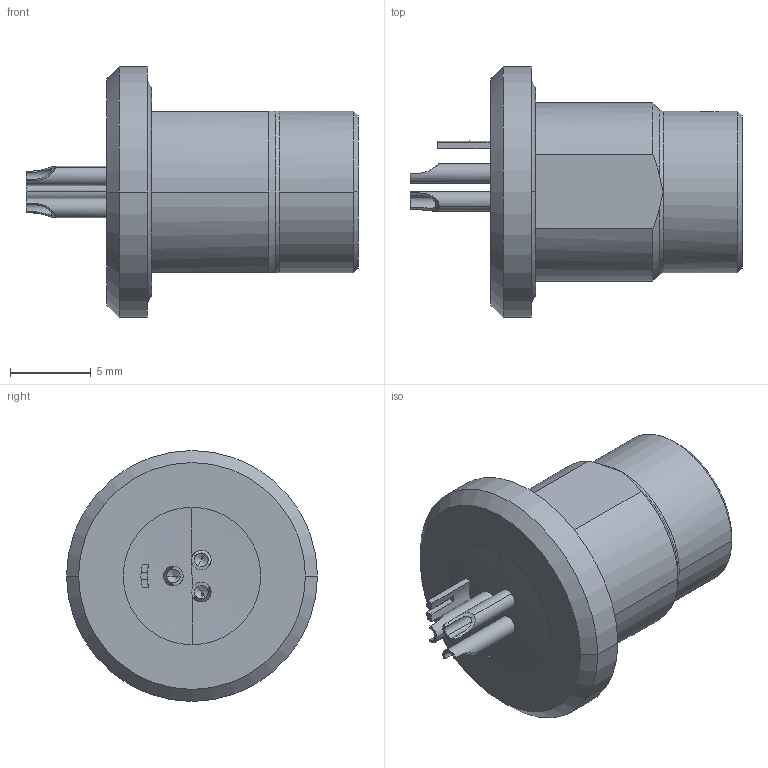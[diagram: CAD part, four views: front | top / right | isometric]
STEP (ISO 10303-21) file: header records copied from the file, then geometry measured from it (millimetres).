
FILE_DESCRIPTION((''),'2;1');
FILE_NAME('GK0Y_R-P03WJG0-000L_WITHOUT_HEX','2020-10-13T08:33:18',('EUnterhaslberger'),(''),'CREO PARAMETRIC BY PTC INC, 2018300','CREO PARAMETRIC BY PTC INC, 2018300','');
FILE_SCHEMA(('AP242_MANAGED_MODEL_BASED_3D_ENGINEERING_MIM_LF { 1 0 10303 442 1 1 4 }'));
Length unit declared in the file: millimetre
Products named in the file (1): GK0Y_R-P03WJG0-000L_WITHOUT_HEX
Bounding box: 20.5 x 15.5 x 15.5 mm (x, y, z)
Volume: 1296.3 mm3; surface area: 1765.4 mm2
Topology: 2 solids, 2 shells, 167 faces, 473 edges, 313 vertices
Faces by surface type: plane 56, cylinder 55, cone 28, torus 26, bspline 2
Entity records: 7055 total; most frequent: CARTESIAN_POINT 1468, ORIENTED_EDGE 930, DIRECTION 928, EDGE_CURVE 465, AXIS2_PLACEMENT_3D 370, VERTEX_POINT 313, CIRCLE 205, VECTOR 188
